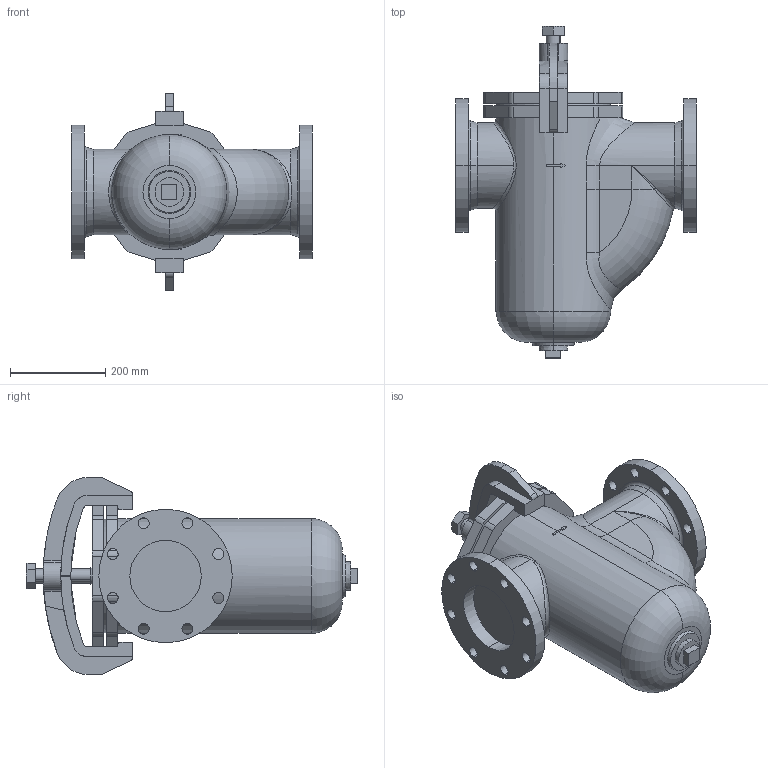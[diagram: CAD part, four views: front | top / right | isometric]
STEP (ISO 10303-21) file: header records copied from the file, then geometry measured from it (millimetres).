
FILE_DESCRIPTION (( 'STEP AP203' ), '1' );
FILE_NAME ('SU-20S 150A.STEP', '2025-12-15T02:21:02', ( '' ), ( '' ), 'SwSTEP 2.0', 'SolidWorks 2024', '' );
FILE_SCHEMA (( 'CONFIG_CONTROL_DESIGN' ));
Length unit declared in the file: millimetre
Products named in the file (4): SU-20S Arm 150A; SU-20S Body-P 150A; SU-20S Bolt 100-150A; SU-20S 150A
Assembly tree (3 placements, depth 2):
  SU-20S 150A
    SU-20S Body-P 150A
    SU-20S Arm 150A
    SU-20S Bolt 100-150A
Bounding box: 505 x 697.1 x 414 mm (x, y, z)
Volume: 36715682.2 mm3; surface area: 1119821.6 mm2
Topology: 3 solids, 3 shells, 237 faces, 623 edges, 403 vertices
Faces by surface type: cylinder 107, plane 91, cone 19, bspline 7, torus 7, sphere 6
Entity records: 10434 total; most frequent: CARTESIAN_POINT 4092, DIRECTION 1260, ORIENTED_EDGE 1242, EDGE_CURVE 621, AXIS2_PLACEMENT_3D 478, VERTEX_POINT 403, VECTOR 304, LINE 304
